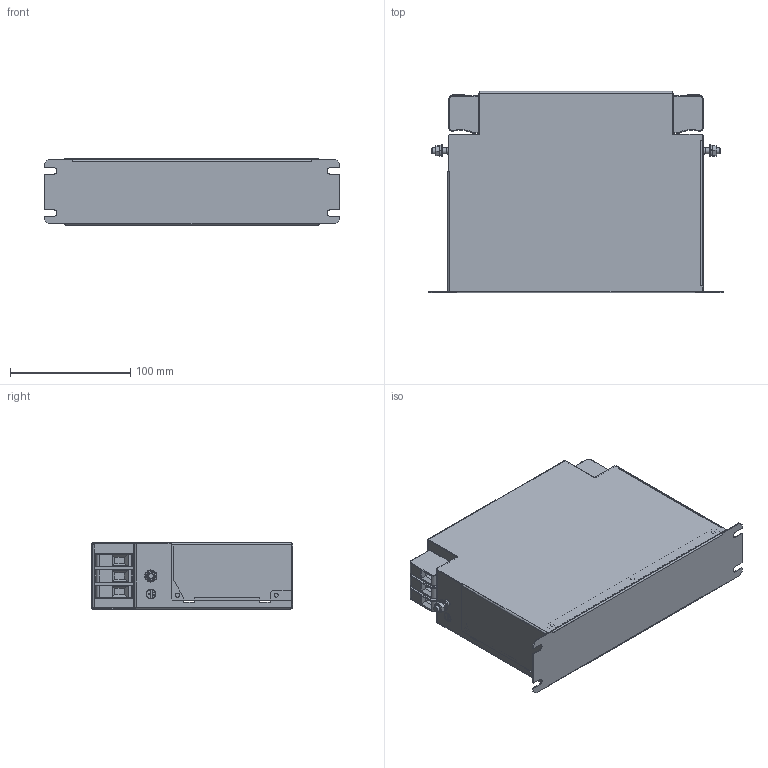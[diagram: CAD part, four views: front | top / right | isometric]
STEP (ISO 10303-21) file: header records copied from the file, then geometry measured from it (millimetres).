
FILE_DESCRIPTION(/* description */ ('raw material description'),/* implementation_level */ '2;1');
FILE_NAME(/* name */ 'C:\Users\Oliver.Volic\OneDrive - Schaffner EMV AG\Projekte\STEP\Wanda\FN3288IT-20_25-33.stp',/* time_stamp */ '2018-06-28T10:22:24+02:00',/* author */ ('Oliver.Volic'),/* organization */ ('Schaffner EMV AG'),/* preprocessor_version */ 'ST-DEVELOPER v16.5',/* originating_system */ 'Autodesk Inventor 2017',/* authorisation */ '');
FILE_SCHEMA (('AUTOMOTIVE_DESIGN { 1 0 10303 214 3 1 1 }'));
Length unit declared in the file: millimetre
Products named in the file (1): FN3288IT-20_25-33
Bounding box: 245 x 167.1 x 55 mm (x, y, z)
Volume: 148201.7 mm3; surface area: 241273 mm2
Topology: 1 solids, 7 shells, 1372 faces, 3374 edges, 1986 vertices
Faces by surface type: plane 828, cylinder 352, torus 84, sphere 72, bspline 22, cone 14
Full cylindrical faces by diameter (mm): 3.3 x13, 5 x4, 5.1 x6, 5.3 x2, 6.206 x2, 7 x2, 8 x2, 10 x8
Entity records: 40765 total; most frequent: CARTESIAN_POINT 7482, DIRECTION 6678, ORIENTED_EDGE 6466, EDGE_CURVE 3229, LINE 2326, VECTOR 2326, AXIS2_PLACEMENT_3D 2176, VERTEX_POINT 1966
